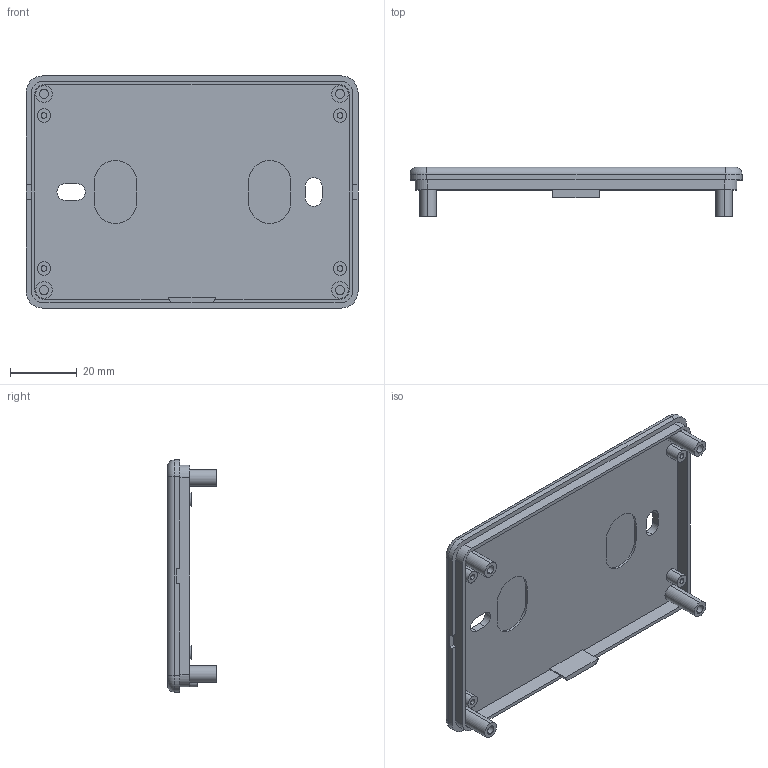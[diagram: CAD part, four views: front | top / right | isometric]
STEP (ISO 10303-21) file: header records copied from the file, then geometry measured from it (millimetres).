
FILE_DESCRIPTION (( 'STEP AP214' ), '1' );
FILE_NAME ('Cos PP121.STEP', '2019-10-28T18:44:34', ( 'aaa' ), ( '' ), 'SwSTEP 2.0', 'SolidWorks 2014', '' );
FILE_SCHEMA (( 'AUTOMOTIVE_DESIGN' ));
Length unit declared in the file: millimetre
Products named in the file (1): Cos  PP121
Bounding box: 99.8 x 14.7 x 69.8 mm (x, y, z)
Volume: 18372.9 mm3; surface area: 18827.7 mm2
Topology: 1 solids, 1 shells, 141 faces, 343 edges, 226 vertices
Faces by surface type: cylinder 73, plane 64, torus 4
Entity records: 4227 total; most frequent: DIRECTION 779, CARTESIAN_POINT 711, ORIENTED_EDGE 686, EDGE_CURVE 343, AXIS2_PLACEMENT_3D 294, VERTEX_POINT 226, VECTOR 191, LINE 191
